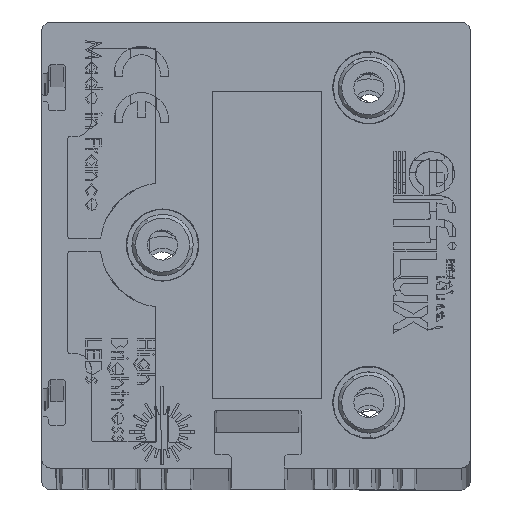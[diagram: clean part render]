
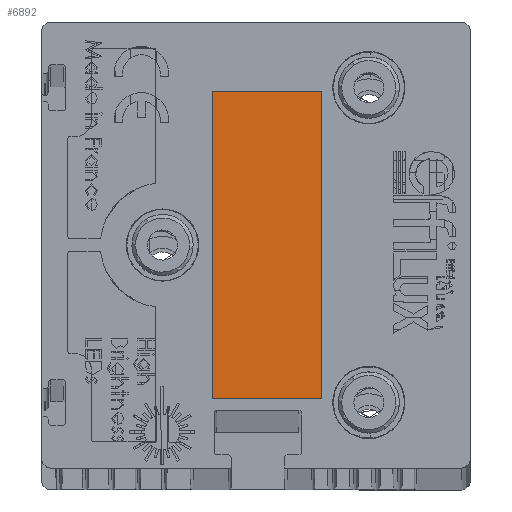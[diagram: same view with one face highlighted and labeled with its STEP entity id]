
A CAD part, top view. The second image highlights one B-rep face of the part: STEP entity #6892.
In plain terms, the highlighted planar face has unit normal (0, 0, 1).
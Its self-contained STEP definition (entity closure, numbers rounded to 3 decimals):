
#2336 = CARTESIAN_POINT ( 'NONE',  ( -5., 17.5, 1434.9 ) ) ;
#2464 = LINE ( 'NONE', #28177, #35553 ) ;
#3831 = LINE ( 'NONE', #26412, #19900 ) ;
#3908 = ORIENTED_EDGE ( 'NONE', *, *, #4319, .T. ) ;
#4319 = EDGE_CURVE ( 'NONE', #20657, #26968, #3831, .T. ) ;
#4449 = CARTESIAN_POINT ( 'NONE',  ( 7.5, 17.5, 1434.9 ) ) ;
#5437 = LINE ( 'NONE', #11140, #28948 ) ;
#6471 = LINE ( 'NONE', #25863, #39526 ) ;
#6892 = ADVANCED_FACE ( 'NONE', ( #32126 ), #20500, .T. ) ;
#11140 = CARTESIAN_POINT ( 'NONE',  ( 7.5, 17.5, 1434.9 ) ) ;
#11639 = DIRECTION ( 'NONE',  ( 1., 0., 0. ) ) ;
#14903 = CARTESIAN_POINT ( 'NONE',  ( -5., 17.5, 1434.9 ) ) ;
#15175 = EDGE_CURVE ( 'NONE', #31133, #20657, #2464, .T. ) ;
#15482 = DIRECTION ( 'NONE',  ( 0., -1., 0. ) ) ;
#16387 = DIRECTION ( 'NONE',  ( -1., 0., 0. ) ) ;
#17834 = CARTESIAN_POINT ( 'NONE',  ( 7.5, -17.5, 1434.9 ) ) ;
#19900 = VECTOR ( 'NONE', #23451, 1000. ) ;
#20197 = ORIENTED_EDGE ( 'NONE', *, *, #25845, .T. ) ;
#20500 = PLANE ( 'NONE',  #37993 ) ;
#20657 = VERTEX_POINT ( 'NONE', #35231 ) ;
#20814 = DIRECTION ( 'NONE',  ( 0., 1., 0. ) ) ;
#23451 = DIRECTION ( 'NONE',  ( 1., 0., 0. ) ) ;
#24288 = ORIENTED_EDGE ( 'NONE', *, *, #15175, .T. ) ;
#25845 = EDGE_CURVE ( 'NONE', #26968, #32991, #5437, .T. ) ;
#25863 = CARTESIAN_POINT ( 'NONE',  ( 7.5, 17.5, 1434.9 ) ) ;
#26412 = CARTESIAN_POINT ( 'NONE',  ( 7.5, -17.5, 1434.9 ) ) ;
#26968 = VERTEX_POINT ( 'NONE', #17834 ) ;
#28146 = EDGE_LOOP ( 'NONE', ( #28256, #24288, #3908, #20197 ) ) ;
#28177 = CARTESIAN_POINT ( 'NONE',  ( -5., 17.5, 1434.9 ) ) ;
#28256 = ORIENTED_EDGE ( 'NONE', *, *, #34513, .T. ) ;
#28948 = VECTOR ( 'NONE', #20814, 1000. ) ;
#31133 = VERTEX_POINT ( 'NONE', #2336 ) ;
#32126 = FACE_OUTER_BOUND ( 'NONE', #28146, .T. ) ;
#32991 = VERTEX_POINT ( 'NONE', #4449 ) ;
#34025 = DIRECTION ( 'NONE',  ( 0., 0., 1. ) ) ;
#34513 = EDGE_CURVE ( 'NONE', #32991, #31133, #6471, .T. ) ;
#35231 = CARTESIAN_POINT ( 'NONE',  ( -5., -17.5, 1434.9 ) ) ;
#35553 = VECTOR ( 'NONE', #15482, 1000. ) ;
#37993 = AXIS2_PLACEMENT_3D ( 'NONE', #14903, #34025, #11639 ) ;
#39526 = VECTOR ( 'NONE', #16387, 1000. ) ;
